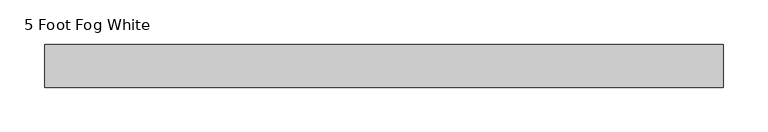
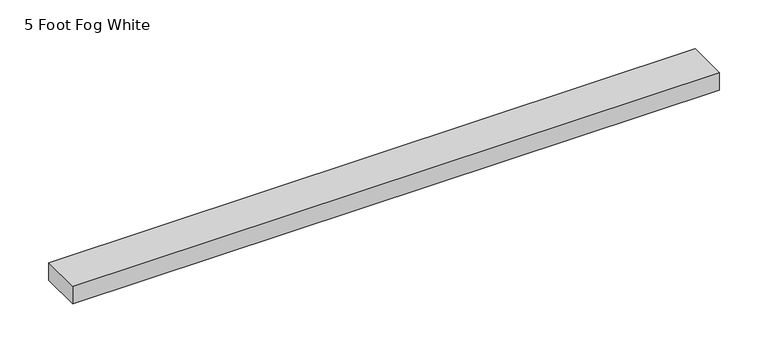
"""IFC4 building model written with IfcOpenShell, lengths in millimetres: proxy geometry, Raceway-2400_Series-Wiremold-Steel : 5 Foot Fog White."""

from ifc_helpers import new_model, si_unit, origin, origin_with_axes, place, context, project, spatial, polyline, outline, extrude, source, transform, mapped, element, save


def proxy_5_foot_fog_white_a0005563(model_context):
    return source(origin(), model_context, "Body", "SweptSolid", [
        extrude(outline(polyline([(762.0, 24.2062), (762.0, -24.2062), (0.0, -24.2062), (0.0, 24.2062), (762.0, 24.2062)])), origin_with_axes(), (0.0, 0.0, 1.0), 22.225),
    ])


if __name__ == "__main__":
    model = new_model("IFC4")
    model_context = context("Model", 3, world=origin())
    ifc_project = project(units=[si_unit("LENGTHUNIT", "METRE", prefix="MILLI")], contexts=[model_context])
    site = spatial("IfcSite", under=ifc_project)
    building = spatial("IfcBuilding", under=site)
    placement = place(None, origin())
    proxy_5_foot_fog_white_shape = proxy_5_foot_fog_white_a0005563(model_context)
    element("IfcBuildingElementProxy", 1, Name="Raceway-2400_Series-Wiremold-Steel : 5 Foot Fog White", ObjectType="Raceway-2400_Series-Wiremold-Steel : 5 Foot Fog White", at=placement, inside=building, context=model_context, shape_type="MappedRepresentation", body=[
        mapped(proxy_5_foot_fog_white_shape, transform((0.0, 0.0, 0.0), x_axis=(1.0, 0.0, 0.0), y_axis=(0.0, 1.0, 0.0), z_axis=(0.0, 0.0, 1.0))),
    ])
    save(model, "model.ifc")
